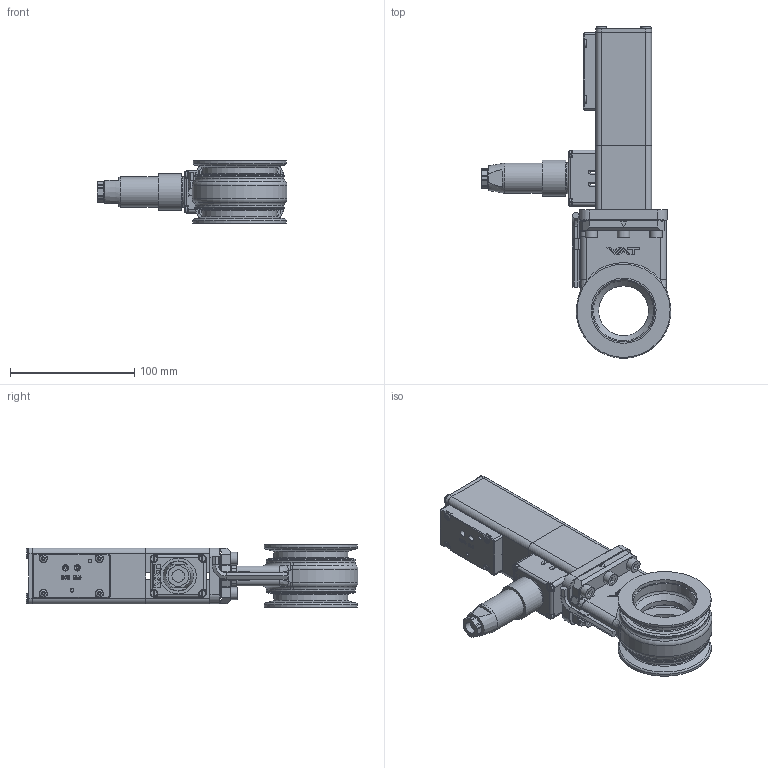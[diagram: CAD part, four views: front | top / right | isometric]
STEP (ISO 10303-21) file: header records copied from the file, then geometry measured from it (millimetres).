
FILE_DESCRIPTION( ( 'Unknown' ), '1' );
FILE_NAME( 'X:/Daten ( aktueller Bestand )/Projekte und Zeichnungen/Solid Edge/STP-Dateien/Schieberventile KF, handbetätigt,el.pneu/315724.stp', 'Unknown', ( 'Unknown' ), ( 'Unknown' ), 'PSStep 14.0', 'Unknown', ' ' );
FILE_SCHEMA( ( 'AUTOMOTIVE_DESIGN { 1 0 10303 214 1 1 1 1 }' ) );
Length unit declared in the file: millimetre
Products named in the file (20): 66272-r1.6_0; 63172-01_5; 69852-01_5; 83436-01.1_0; Assem1; 65209-01.2_5; 252080.1_1; 252066.1_1; 69968-01.1_5; 73280-01_1.1_5; 63152-01.4_5; 70613-01.2_1; 66481-01.2_1; N-6016-078.1_1; 228772.1_5; n-8504-002_1; 69672-01_1; n-6024-526_1; 94294-01.3_1
Assembly tree (35 placements, depth 3):
  Assem1
    65209-01.2_5
    252080.1_1
    252066.1_1  x4
    69968-01.1_5
    73280-01_1.1_5
    63152-01.4_5
    70613-01.2_1
    66481-01.2_1
    N-6016-078.1_1  x4
    228772.1_5  x6
    n-8504-002_1
    69672-01_1
    n-6024-526_1  x4
    94294-01.3_1
    83436-01.1_0  x2
    66272-r1.6_0
      63172-01_5
      69852-01_5
      83436-01.1_0
      66272-r1.6_0
Bounding box: 152.51 x 266.84 x 50 mm (x, y, z)
Volume: 334047.9 mm3; surface area: 182612.9 mm2
Topology: 34 solids, 34 shells, 1311 faces, 3251 edges, 2121 vertices
Faces by surface type: plane 770, cylinder 324, cone 65, torus 56, bspline 47, extrusion 45, sphere 4
Full cylindrical faces by diameter (mm): 1.95 x4, 2 x4, 2.25 x4, 2.5 x10, 3 x14, 3.3 x8, 3.4 x6, 4 x8, 4.15 x4, 4.2 x2, 4.65 x4, 5 x2, 5.4 x4, 5.6 x8, 5.95 x2, 6 x20, 6.2 x10, 6.95 x2, 8.1 x4, 9.85 x1, 10 x7, 13.3 x1, 13.85 x1, 14.9 x1, 15 x1, 17.55 x1, 23.5 x1, 24.3 x1, 24.65 x1, 29 x1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
Entity records: 45075 total; most frequent: CARTESIAN_POINT 10516, DIRECTION 5114, ORIENTED_EDGE 5080, EDGE_CURVE 2540, VERTEX_POINT 1761, AXIS2_PLACEMENT_3D 1722, VECTOR 1670, LINE 1625
